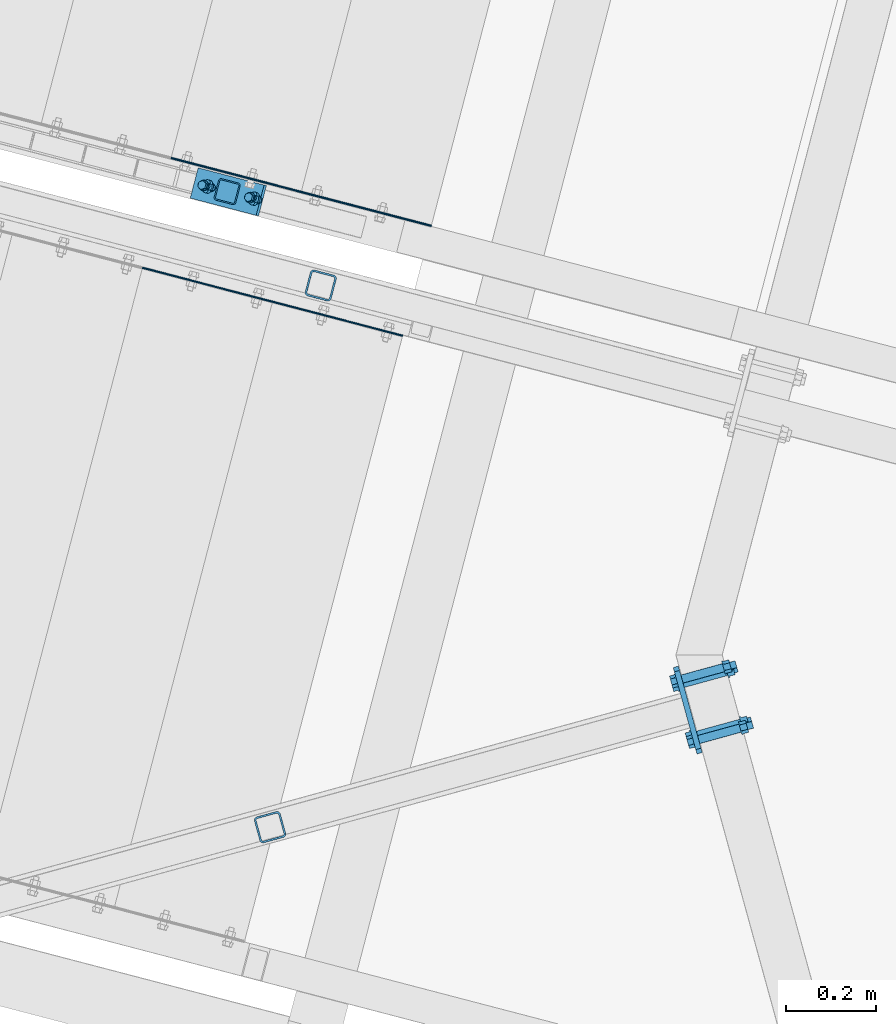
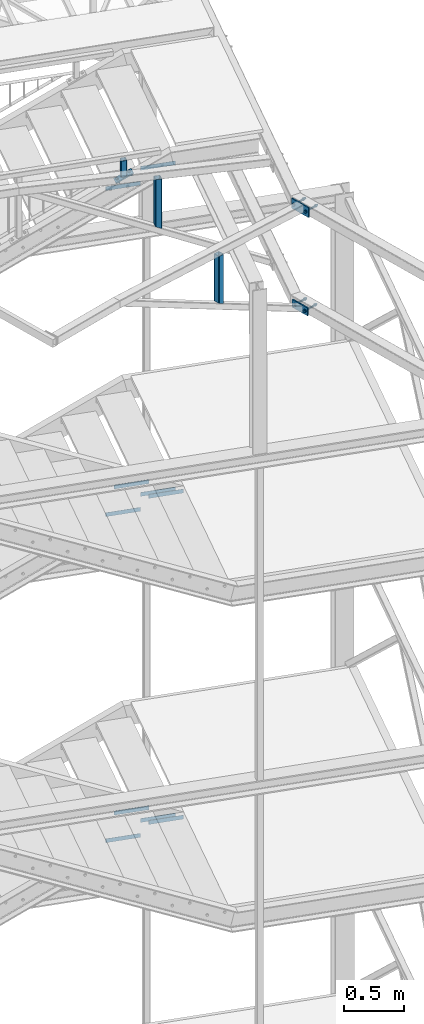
# One storey, part 69 of 169: 16 discrete accessories, 3 mechanical fasteners, 13 elements without a shape of their own.
"""IFC2X3 building model written with IfcOpenShell, lengths in millimetres."""

from ifc_helpers import new_model, si_unit, frame, frame_2d, origin_with_axes, origin_2d_with_axis, place, context, subcontext, project, spatial, polyline, circle_curve, parameter, trimmed, segment, composite_curve, rectangle, hollow_rectangle, circle, outline, extrude, clip, halfspace, source, transform, mapped, material, type_object, element, aggregate, save


model = new_model("IFC2X3")

# Units and contexts
model_context = context("Model", 3, precision=1e-05, world=origin_with_axes())
body_context = subcontext(model_context, "Body", "Model", "MODEL_VIEW")
ifc_project = project(units=[si_unit("LENGTHUNIT", "METRE", prefix="MILLI"), si_unit("AREAUNIT", "SQUARE_METRE"), si_unit("VOLUMEUNIT", "CUBIC_METRE"), si_unit("MASSUNIT", "GRAM", prefix="KILO"), si_unit("TIMEUNIT", "SECOND"), si_unit("PLANEANGLEUNIT", "RADIAN"), si_unit("SOLIDANGLEUNIT", "STERADIAN"), si_unit("THERMODYNAMICTEMPERATUREUNIT", "DEGREE_CELSIUS"), si_unit("LUMINOUSINTENSITYUNIT", "LUMEN")], contexts=[model_context])

# Site, building, storey
site_placement = place(None, origin_with_axes())
site = spatial("IfcSite", under=ifc_project, at=site_placement, Name="Undefined", CompositionType="ELEMENT")
building_placement = place(site_placement, origin_with_axes())
building = spatial("IfcBuilding", under=site, at=building_placement, Name="Undefined", CompositionType="ELEMENT")
storey_placement = place(building_placement, origin_with_axes())
storey = spatial("IfcBuildingStorey", under=building, at=storey_placement, Name="Undefined", CompositionType="ELEMENT", Elevation=0.0)

# Assembly, discrete accessories
assembly_1_placement = place(storey_placement, origin_with_axes())
assembly_1 = element("IfcElementAssembly", 1, at=assembly_1_placement, inside=storey, Name="Steel Assembly", AssemblyPlace="NOTDEFINED", PredefinedType="RIGID_FRAME")
ifc_material_1 = material(Name="STEEL/S235")
discrete_accessory_type_1 = type_object("IfcDiscreteAccessoryType", Name="BLACHA")
discrete_accessory_1_placement = place(assembly_1_placement, frame((-24154.0298552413, 5497.15455266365, 12861.3785766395), z_axis=(-0.964243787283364, -0.265016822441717, -5.00832275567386e-05), x_axis=(1.20319999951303e-05, 0.000145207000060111, -0.999999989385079)))
discrete_accessory_1 = element("IfcDiscreteAccessory", 2, at=discrete_accessory_1_placement, type_object=discrete_accessory_type_1, material=ifc_material_1, Name="BLACHA", ObjectType="BL12*180", context=body_context, shape_type="SweptSolid", body=[
    extrude(outline(polyline([(80.0017852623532, -89.9999999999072), (6.18456397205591e-11, -90.0), (-6.3664629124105e-11, 90.0000000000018), (80.0017852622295, 90.0000000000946), (80.0017852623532, -89.9999999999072)])), frame((-1.81898942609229e-12, -1.81898940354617e-12, -5.99999999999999), z_axis=(0.0, 0.0, 1.0), x_axis=(1.0, 0.0, 0.0)), (0.0, 0.0, 1.0), 12.0),
])
discrete_accessory_2_placement = place(assembly_1_placement, frame((-24127.4497018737, 5400.708565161, 13831.0504554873), z_axis=(-0.964243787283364, -0.265016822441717, -5.00832275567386e-05), x_axis=(-0.265016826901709, 0.964243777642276, 0.000136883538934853)))
discrete_accessory_2 = element("IfcDiscreteAccessory", 3, at=discrete_accessory_2_placement, type_object=discrete_accessory_type_1, material=ifc_material_1, Name="BLACHA", ObjectType="BL12*100", context=body_context, shape_type="SweptSolid", body=[
    extrude(outline(polyline([(200.000000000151, 50.0000000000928), (200.000000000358, -49.9999999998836), (2.75122147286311e-11, -50.0000000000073), (-2.8421709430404e-11, 50.0000000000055), (200.000000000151, 50.0000000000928)])), frame((-1.81898942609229e-12, -1.81898940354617e-12, -5.99999999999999), z_axis=(0.0, 0.0, 1.0), x_axis=(1.0, 0.0, 0.0)), (0.0, 0.0, 1.0), 12.0),
])

# Assembly, discrete accessory
assembly_2_placement = place(storey_placement, origin_with_axes())
assembly_2 = element("IfcElementAssembly", 4, at=assembly_2_placement, inside=storey, Name="Steel Assembly", AssemblyPlace="NOTDEFINED", PredefinedType="RIGID_FRAME")
discrete_accessory_3_placement = place(assembly_2_placement, frame((-25187.9026284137, 6619.39007945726, 13809.2371377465), z_axis=(-0.432715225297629, 0.11294923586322, 0.894427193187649), x_axis=(0.252628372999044, 0.967563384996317, 3.42100000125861e-05)))
discrete_accessory_3 = element("IfcDiscreteAccessory", 5, at=discrete_accessory_3_placement, type_object=discrete_accessory_type_1, material=ifc_material_1, Name="BLACHA", ObjectType="BL12*170", context=body_context, shape_type="SweptSolid", body=[
    extrude(outline(polyline([(5.82076609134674e-11, 84.99999999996), (70.0000000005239, 84.9999999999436), (70.0000000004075, -84.9999999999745), (-5.82076609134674e-11, -84.99999999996), (5.82076609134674e-11, 84.99999999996)])), frame((-1.81898942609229e-12, -1.81898940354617e-12, -5.99999999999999), z_axis=(0.0, 0.0, 1.0), x_axis=(1.0, 0.0, 0.0)), (0.0, 0.0, 1.0), 12.0),
])

# Discrete accessory
discrete_accessory_type_2 = type_object("IfcDiscreteAccessoryType", Name="BEAM")
discrete_accessory_4_placement = place(assembly_1_placement, frame((-25085.9172356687, 5235.79661253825, 13867.4802480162), z_axis=(-0.964243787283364, -0.265016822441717, -5.00832275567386e-05), x_axis=(1.20319999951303e-05, 0.000145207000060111, -0.999999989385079)))
discrete_accessory_4 = element("IfcDiscreteAccessory", 6, at=discrete_accessory_4_placement, type_object=discrete_accessory_type_2, material=ifc_material_1, Name="BEAM", ObjectType="SHS60*4", context=body_context, shape_type="Clipping", body=[
    clip(clip(extrude(hollow_rectangle(XDim=60.0, YDim=60.0, WallThickness=4.0, InnerFilletRadius=4.0, OuterFilletRadius=8.0, at=origin_2d_with_axis()), frame((524.798850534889, 0.0, -3.63798591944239e-12), z_axis=(-1.0, -3.46944695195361e-18, -1.38777878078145e-17), x_axis=(1.73472347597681e-18, -1.0, 0.0)), (0.0, 0.0, 1.0), 523.82), halfspace(frame((49.864036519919, 0.000644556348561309, 871.462888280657), z_axis=(-0.885407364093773, 2.14840959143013e-05, -0.464815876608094), x_axis=(-1.9022240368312e-05, -0.999999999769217, -9.98602767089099e-06)), True)), halfspace(frame((-31.6175807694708, 4.73646650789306e-08, 1000.74984162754), z_axis=(0.998752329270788, -1.61183526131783e-08, 0.0499378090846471), x_axis=(0.0, 1.0, 0.0)), True)),
])

# Assembly, discrete accessory
assembly_3_placement = place(storey_placement, origin_with_axes())
assembly_3 = element("IfcElementAssembly", 7, at=assembly_3_placement, inside=storey, Name="Steel Assembly", AssemblyPlace="NOTDEFINED", PredefinedType="RIGID_FRAME")
discrete_accessory_5_placement = place(assembly_3_placement, frame((-24972.8386397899, 6444.39015732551, 13869.1857493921), z_axis=(-0.967563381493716, 0.252628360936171, -0.000118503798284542), x_axis=(8.00909999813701e-05, -0.000162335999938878, -0.999999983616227)))
discrete_accessory_5 = element("IfcDiscreteAccessory", 8, at=discrete_accessory_5_placement, type_object=discrete_accessory_type_2, material=ifc_material_1, Name="BEAM", ObjectType="SHS60*4", context=body_context, shape_type="Clipping", body=[
    clip(clip(extrude(hollow_rectangle(XDim=60.0, YDim=60.0, WallThickness=4.0, InnerFilletRadius=4.0, OuterFilletRadius=8.0, at=origin_2d_with_axis()), frame((525.887833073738, -3.83678823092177e-13, -1.4254218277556e-17), z_axis=(-1.0, -3.46944695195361e-18, -1.38777878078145e-17), x_axis=(1.73472347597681e-18, -1.0, 0.0)), (0.0, 0.0, 1.0), 523.18), halfspace(frame((50.9524243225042, 0.000644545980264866, 871.46288832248), z_axis=(-0.885407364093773, 2.14840959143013e-05, -0.464815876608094), x_axis=(-1.9022240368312e-05, -0.999999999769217, -9.98602767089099e-06)), True)), halfspace(frame((-29.8887662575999, 2.10288391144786e-08, 1000.74984163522), z_axis=(0.998752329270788, -1.61183526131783e-08, 0.0499378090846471), x_axis=(0.0, 1.0, 0.0)), True)),
])
aggregate(assembly_3, [discrete_accessory_5])

# Discrete accessory
discrete_accessory_type_3 = type_object("IfcDiscreteAccessoryType", Name="STANCHION")
discrete_accessory_6_placement = place(assembly_2_placement, frame((-25181.6574247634, 6653.93058577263, 13800.1970322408), z_axis=(3.4552000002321e-05, 0.000132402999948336, 0.999999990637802), x_axis=(0.252628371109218, 0.967563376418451, -0.000136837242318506)))
discrete_accessory_6 = element("IfcDiscreteAccessory", 9, at=discrete_accessory_6_placement, type_object=discrete_accessory_type_3, material=ifc_material_1, Name="STANCHION", ObjectType="SHS50*3", context=body_context, shape_type="Clipping", body=[
    clip(clip(extrude(hollow_rectangle(XDim=50.0, YDim=50.0, WallThickness=3.0, InnerFilletRadius=3.0, OuterFilletRadius=6.0, at=origin_2d_with_axis()), frame((5.96860776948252e-13, 3.63798078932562e-12, 179.999999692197), z_axis=(-2.54700353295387e-10, 0.0, -1.0), x_axis=(0.0, 1.0, 0.0)), (0.0, 0.0, 1.0), 165.59), halfspace(frame((999.999999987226, -1.93394953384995e-08, 179.999999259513), z_axis=(-2.54700353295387e-10, 0.0, -1.0), x_axis=(0.0, 1.0, 0.0)), True)), halfspace(frame((999.999067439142, 2.68328154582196, 13.2372719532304), z_axis=(-0.00015298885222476, 0.447213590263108, 0.894427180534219), x_axis=(-7.64941891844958e-05, -0.894427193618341, 0.447213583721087)), True)),
])

# Assembly, discrete accessory
assembly_4_placement = place(storey_placement, origin_with_axes())
assembly_4 = element("IfcElementAssembly", 10, at=assembly_4_placement, inside=storey, Name="Steel Assembly", AssemblyPlace="NOTDEFINED", PredefinedType="RIGID_FRAME")
ifc_material_2 = material(Name="STEEL/S235JR")
discrete_accessory_type_4 = type_object("IfcDiscreteAccessoryType", Name="ANGLE")
discrete_accessory_7_placement = place(assembly_4_placement, frame((-24726.0399740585, 6577.8937806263, 13830.0957858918), z_axis=(0.252562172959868, 0.967580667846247, 0.0), x_axis=(-0.967580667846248, 0.252562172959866, 0.0)))
discrete_accessory_7 = element("IfcDiscreteAccessory", 11, at=discrete_accessory_7_placement, type_object=discrete_accessory_type_4, material=ifc_material_2, Name="ANGLE", ObjectType="3*40", context=body_context, shape_type="SweptSolid", body=[
    extrude(rectangle(XDim=40.0, YDim=3.0, at=origin_2d_with_axis()), frame((300.000000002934, 1.81898940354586e-12, -1.81898940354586e-12), z_axis=(-1.0, -3.46944695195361e-18, -1.38777878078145e-17), x_axis=(1.73472347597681e-18, -1.0, 0.0)), (0.0, 0.0, 1.0), 300.0),
])
aggregate(assembly_4, [discrete_accessory_7])

assembly_5_placement = place(storey_placement, origin_with_axes())
assembly_5 = element("IfcElementAssembly", 12, at=assembly_5_placement, inside=storey, Name="Steel Assembly", AssemblyPlace="NOTDEFINED", PredefinedType="RIGID_FRAME")
discrete_accessory_8_placement = place(assembly_5_placement, frame((-25016.3141778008, 6653.66243343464, 13680.0957858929), z_axis=(0.252562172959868, 0.967580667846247, 0.0), x_axis=(-0.967580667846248, 0.252562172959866, 0.0)))
discrete_accessory_8 = element("IfcDiscreteAccessory", 13, at=discrete_accessory_8_placement, type_object=discrete_accessory_type_4, material=ifc_material_2, Name="ANGLE", ObjectType="3*40", context=body_context, shape_type="SweptSolid", body=[
    extrude(rectangle(XDim=40.0, YDim=3.0, at=origin_2d_with_axis()), frame((300.000000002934, 1.81898940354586e-12, -1.81898940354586e-12), z_axis=(-1.0, -3.46944695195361e-18, -1.38777878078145e-17), x_axis=(1.73472347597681e-18, -1.0, 0.0)), (0.0, 0.0, 1.0), 300.0),
])
aggregate(assembly_5, [discrete_accessory_8])

assembly_6_placement = place(storey_placement, origin_with_axes())
assembly_6 = element("IfcElementAssembly", 14, at=assembly_6_placement, inside=storey, Name="Steel Assembly", AssemblyPlace="NOTDEFINED", PredefinedType="RIGID_FRAME")
discrete_accessory_9_placement = place(assembly_6_placement, frame((-25370.5967158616, 6484.28009191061, 10830.3215823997), z_axis=(-0.252694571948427, -0.96754609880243, 0.0), x_axis=(0.96754609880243, -0.252694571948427, 0.0)))
discrete_accessory_9 = element("IfcDiscreteAccessory", 15, at=discrete_accessory_9_placement, type_object=discrete_accessory_type_4, material=ifc_material_2, Name="ANGLE", ObjectType="3*40", context=body_context, shape_type="SweptSolid", body=[
    extrude(rectangle(XDim=40.0, YDim=3.0, at=origin_2d_with_axis()), frame((300.000000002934, 1.81898940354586e-12, -1.81898940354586e-12), z_axis=(-1.0, -3.46944695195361e-18, -1.38777878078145e-17), x_axis=(1.73472347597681e-18, -1.0, 0.0)), (0.0, 0.0, 1.0), 300.0),
])
aggregate(assembly_6, [discrete_accessory_9])

assembly_7_placement = place(storey_placement, origin_with_axes())
assembly_7 = element("IfcElementAssembly", 16, at=assembly_7_placement, inside=storey, Name="Steel Assembly", AssemblyPlace="NOTDEFINED", PredefinedType="RIGID_FRAME")
discrete_accessory_10_placement = place(assembly_7_placement, frame((-25080.3328827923, 6408.47171955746, 10680.3215823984), z_axis=(-0.252694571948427, -0.96754609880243, 0.0), x_axis=(0.96754609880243, -0.252694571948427, 0.0)))
discrete_accessory_10 = element("IfcDiscreteAccessory", 17, at=discrete_accessory_10_placement, type_object=discrete_accessory_type_4, material=ifc_material_2, Name="ANGLE", ObjectType="3*40", context=body_context, shape_type="SweptSolid", body=[
    extrude(rectangle(XDim=40.0, YDim=3.0, at=origin_2d_with_axis()), frame((300.000000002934, 1.81898940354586e-12, -1.81898940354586e-12), z_axis=(-1.0, -3.46944695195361e-18, -1.38777878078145e-17), x_axis=(1.73472347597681e-18, -1.0, 0.0)), (0.0, 0.0, 1.0), 300.0),
])
aggregate(assembly_7, [discrete_accessory_10])

assembly_8_placement = place(storey_placement, origin_with_axes())
assembly_8 = element("IfcElementAssembly", 18, at=assembly_8_placement, inside=storey, Name="Steel Assembly", AssemblyPlace="NOTDEFINED", PredefinedType="RIGID_FRAME")
discrete_accessory_11_placement = place(assembly_8_placement, frame((-24726.1540514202, 6577.45686564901, 10530.0958168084), z_axis=(0.252562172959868, 0.967580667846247, 0.0), x_axis=(-0.967580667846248, 0.252562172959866, 0.0)))
discrete_accessory_11 = element("IfcDiscreteAccessory", 19, at=discrete_accessory_11_placement, type_object=discrete_accessory_type_4, material=ifc_material_2, Name="ANGLE", ObjectType="3*40", context=body_context, shape_type="SweptSolid", body=[
    extrude(rectangle(XDim=40.0, YDim=3.0, at=origin_2d_with_axis()), frame((300.000000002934, 1.81898940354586e-12, -1.81898940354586e-12), z_axis=(-1.0, -3.46944695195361e-18, -1.38777878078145e-17), x_axis=(1.73472347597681e-18, -1.0, 0.0)), (0.0, 0.0, 1.0), 300.0),
])
aggregate(assembly_8, [discrete_accessory_11])

assembly_9_placement = place(storey_placement, origin_with_axes())
assembly_9 = element("IfcElementAssembly", 20, at=assembly_9_placement, inside=storey, Name="Steel Assembly", AssemblyPlace="NOTDEFINED", PredefinedType="RIGID_FRAME")
discrete_accessory_12_placement = place(assembly_9_placement, frame((-25016.4282551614, 6653.2255184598, 10380.0958168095), z_axis=(0.252562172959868, 0.967580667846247, 0.0), x_axis=(-0.967580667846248, 0.252562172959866, 0.0)))
discrete_accessory_12 = element("IfcDiscreteAccessory", 21, at=discrete_accessory_12_placement, type_object=discrete_accessory_type_4, material=ifc_material_2, Name="ANGLE", ObjectType="3*40", context=body_context, shape_type="SweptSolid", body=[
    extrude(rectangle(XDim=40.0, YDim=3.0, at=origin_2d_with_axis()), frame((300.000000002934, 1.81898940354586e-12, -1.81898940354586e-12), z_axis=(-1.0, -3.46944695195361e-18, -1.38777878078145e-17), x_axis=(1.73472347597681e-18, -1.0, 0.0)), (0.0, 0.0, 1.0), 300.0),
])
aggregate(assembly_9, [discrete_accessory_12])

assembly_10_placement = place(storey_placement, origin_with_axes())
assembly_10 = element("IfcElementAssembly", 22, at=assembly_10_placement, inside=storey, Name="Steel Assembly", AssemblyPlace="NOTDEFINED", PredefinedType="RIGID_FRAME")
discrete_accessory_13_placement = place(assembly_10_placement, frame((-25370.7107932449, 6483.84317695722, 7530.32161330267), z_axis=(-0.252694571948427, -0.96754609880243, 0.0), x_axis=(0.96754609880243, -0.252694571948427, 0.0)))
discrete_accessory_13 = element("IfcDiscreteAccessory", 23, at=discrete_accessory_13_placement, type_object=discrete_accessory_type_4, material=ifc_material_2, Name="ANGLE", ObjectType="3*40", context=body_context, shape_type="SweptSolid", body=[
    extrude(rectangle(XDim=40.0, YDim=3.0, at=origin_2d_with_axis()), frame((300.000000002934, 1.81898940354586e-12, -1.81898940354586e-12), z_axis=(-1.0, -3.46944695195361e-18, -1.38777878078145e-17), x_axis=(1.73472347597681e-18, -1.0, 0.0)), (0.0, 0.0, 1.0), 300.0),
])
aggregate(assembly_10, [discrete_accessory_13])

assembly_11_placement = place(storey_placement, origin_with_axes())
assembly_11 = element("IfcElementAssembly", 24, at=assembly_11_placement, inside=storey, Name="Steel Assembly", AssemblyPlace="NOTDEFINED", PredefinedType="RIGID_FRAME")
discrete_accessory_14_placement = place(assembly_11_placement, frame((-25080.4469601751, 6408.03480460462, 7380.3216133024), z_axis=(-0.252694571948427, -0.96754609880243, 0.0), x_axis=(0.96754609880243, -0.252694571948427, 0.0)))
discrete_accessory_14 = element("IfcDiscreteAccessory", 25, at=discrete_accessory_14_placement, type_object=discrete_accessory_type_4, material=ifc_material_2, Name="ANGLE", ObjectType="3*40", context=body_context, shape_type="SweptSolid", body=[
    extrude(rectangle(XDim=40.0, YDim=3.0, at=origin_2d_with_axis()), frame((300.000000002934, 1.81898940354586e-12, -1.81898940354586e-12), z_axis=(-1.0, -3.46944695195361e-18, -1.38777878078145e-17), x_axis=(1.73472347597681e-18, -1.0, 0.0)), (0.0, 0.0, 1.0), 300.0),
])
aggregate(assembly_11, [discrete_accessory_14])

assembly_12_placement = place(storey_placement, origin_with_axes())
assembly_12 = element("IfcElementAssembly", 26, at=assembly_12_placement, inside=storey, Name="Steel Assembly", AssemblyPlace="NOTDEFINED", PredefinedType="RIGID_FRAME")
discrete_accessory_15_placement = place(assembly_12_placement, frame((-24726.2681288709, 6577.01995070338, 7230.09584768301), z_axis=(0.252562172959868, 0.967580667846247, 0.0), x_axis=(-0.967580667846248, 0.252562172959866, 0.0)))
discrete_accessory_15 = element("IfcDiscreteAccessory", 27, at=discrete_accessory_15_placement, type_object=discrete_accessory_type_4, material=ifc_material_2, Name="ANGLE", ObjectType="3*40", context=body_context, shape_type="SweptSolid", body=[
    extrude(rectangle(XDim=40.0, YDim=3.0, at=origin_2d_with_axis()), frame((300.000000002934, 1.81898940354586e-12, -1.81898940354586e-12), z_axis=(-1.0, -3.46944695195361e-18, -1.38777878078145e-17), x_axis=(1.73472347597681e-18, -1.0, 0.0)), (0.0, 0.0, 1.0), 300.0),
])
aggregate(assembly_12, [discrete_accessory_15])

assembly_13_placement = place(storey_placement, origin_with_axes())
assembly_13 = element("IfcElementAssembly", 28, at=assembly_13_placement, inside=storey, Name="Steel Assembly", AssemblyPlace="NOTDEFINED", PredefinedType="RIGID_FRAME")
discrete_accessory_16_placement = place(assembly_13_placement, frame((-25016.5423326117, 6652.78860351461, 7080.09584768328), z_axis=(0.252562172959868, 0.967580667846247, 0.0), x_axis=(-0.967580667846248, 0.252562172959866, 0.0)))
discrete_accessory_16 = element("IfcDiscreteAccessory", 29, at=discrete_accessory_16_placement, type_object=discrete_accessory_type_4, material=ifc_material_2, Name="ANGLE", ObjectType="3*40", context=body_context, shape_type="SweptSolid", body=[
    extrude(rectangle(XDim=40.0, YDim=3.0, at=origin_2d_with_axis()), frame((300.000000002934, 1.81898940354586e-12, -1.81898940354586e-12), z_axis=(-1.0, -3.46944695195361e-18, -1.38777878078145e-17), x_axis=(1.73472347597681e-18, -1.0, 0.0)), (0.0, 0.0, 1.0), 300.0),
])
aggregate(assembly_13, [discrete_accessory_16])

# Mechanical fastener
ifc_material_3 = material(Name="Undefined")
discrete_accessory_type_5 = type_object("IfcDiscreteAccessoryType", Name="Bolt assembly")
shared_shape_1 = source(origin_with_axes(), body_context, "Body", "SweptSolid", [
    extrude(circle(Radius=9.5, at=origin_2d_with_axis()), frame((0.0, 3.89999843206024, 0.0), z_axis=(0.0, 1.0, 0.0), x_axis=(1.0, 0.0, 0.0)), (0.0, 0.0, 1.0), 100.1),
    extrude(outline(composite_curve([segment(polyline([(-10.0, 9.5), (10.0, 9.5)]), True, "CONTINUOUS"), segment(trimmed(circle_curve(frame_2d((10.0, 0.0), x_axis=(0.0, 1.0)), 9.5), [parameter(0.0)], [parameter(3.14159265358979)], False, "PARAMETER"), True, "CONTINUOUS"), segment(polyline([(10.0, -9.5), (-10.0, -9.5)]), True, "CONTINUOUS"), segment(trimmed(circle_curve(frame_2d((-10.0, 0.0), x_axis=(0.0, -1.0)), 9.5), [parameter(0.0)], [parameter(3.14159265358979)], False, "PARAMETER"), True, "DISCONTINUOUS")], self_intersect=False)), frame((0.0, -8.89999998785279, 0.0), z_axis=(0.0, 1.0, 0.0), x_axis=(1.0, 0.0, 0.0)), (0.0, 0.0, 1.0), 12.0),
    extrude(outline(polyline([(13.85640646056, 0.0), (6.92820323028, 12.0000000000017), (-6.92820323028, 12.0000000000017), (-13.85640646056, 0.0), (-6.92820323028, -12.0000000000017), (6.92820323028, -12.0000000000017), (13.85640646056, 0.0)])), frame((0.0, -21.9999999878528, 0.0), z_axis=(0.0, 1.0, 0.0), x_axis=(1.0, 0.0, 0.0)), (0.0, 0.0, 1.0), 10.0),
    extrude(circle(Radius=8.0, at=origin_2d_with_axis()), frame((0.0, -11.9999999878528, 0.0), z_axis=(0.0, 1.0, 0.0), x_axis=(1.0, 0.0, 0.0)), (0.0, 0.0, 1.0), 140.0),
    extrude(circle(Radius=15.0, at=origin_2d_with_axis()), frame((0.0, -11.9999999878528, 0.0), z_axis=(0.0, 1.0, 0.0), x_axis=(1.0, 0.0, 0.0)), (0.0, 0.0, 1.0), 3.0),
    extrude(circle(Radius=15.0, at=origin_2d_with_axis()), frame((0.0, 103.999998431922, 0.0), z_axis=(0.0, 1.0, 0.0), x_axis=(1.0, 0.0, 0.0)), (0.0, 0.0, 1.0), 3.0),
    extrude(outline(polyline([(13.85640646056, 0.0), (6.92820323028, 12.0000000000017), (-6.92820323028, 12.0000000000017), (-13.85640646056, 0.0), (-6.92820323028, -12.0000000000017), (6.92820323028, -12.0000000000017), (13.85640646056, 0.0)])), frame((0.0, 106.999998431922, 0.0), z_axis=(0.0, 1.0, 0.0), x_axis=(1.0, 0.0, 0.0)), (0.0, 0.0, 1.0), 13.0),
])
mechanical_fastener_1_placement = place(assembly_1_placement, frame((-24151.1366432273, 5497.95541385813, 12821.3769411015), z_axis=(-0.265016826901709, 0.964243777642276, 0.000136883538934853), x_axis=(-1.20319999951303e-05, -0.000145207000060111, 0.999999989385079)))
mechanical_fastener_1 = element("IfcMechanicalFastener", 30, at=mechanical_fastener_1_placement, type_object=discrete_accessory_type_5, material=ifc_material_3, Name="Bolt assembly", NominalDiameter=16.0, NominalLength=140.0, context=body_context, shape_type="MappedRepresentation", body=[
    mapped(shared_shape_1, transform((1.18234311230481e-11, 9.20081788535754e-11, -60.0000000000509))),
    mapped(shared_shape_1, transform((-1.2732925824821e-11, -9.20223897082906e-11, 60.0000000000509))),
])

shared_shape_2 = source(origin_with_axes(), body_context, "Body", "SweptSolid", [
    extrude(circle(Radius=9.5, at=origin_2d_with_axis()), frame((0.0, 3.89999843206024, 0.0), z_axis=(0.0, 1.0, 0.0), x_axis=(1.0, 0.0, 0.0)), (0.0, 0.0, 1.0), 95.1),
    extrude(outline(composite_curve([segment(polyline([(9.5, 10.0), (9.5, -10.0)]), True, "CONTINUOUS"), segment(trimmed(circle_curve(frame_2d((0.0, -10.0), x_axis=(1.0, 0.0)), 9.5), [parameter(0.0)], [parameter(3.14159265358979)], False, "PARAMETER"), True, "CONTINUOUS"), segment(polyline([(-9.5, -10.0), (-9.5, 10.0)]), True, "CONTINUOUS"), segment(trimmed(circle_curve(frame_2d((0.0, 10.0), x_axis=(-1.0, 0.0)), 9.5), [parameter(0.0)], [parameter(3.14159265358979)], False, "PARAMETER"), True, "DISCONTINUOUS")], self_intersect=False)), frame((0.0, -8.89999998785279, 0.0), z_axis=(0.0, 1.0, 0.0), x_axis=(1.0, 0.0, 0.0)), (0.0, 0.0, 1.0), 12.0),
    extrude(outline(polyline([(13.85640646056, 0.0), (6.92820323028, 12.0000000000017), (-6.92820323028, 12.0000000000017), (-13.85640646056, 0.0), (-6.92820323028, -12.0000000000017), (6.92820323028, -12.0000000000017), (13.85640646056, 0.0)])), frame((0.0, -21.9999999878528, 0.0), z_axis=(0.0, 1.0, 0.0), x_axis=(1.0, 0.0, 0.0)), (0.0, 0.0, 1.0), 10.0),
    extrude(circle(Radius=8.0, at=origin_2d_with_axis()), frame((0.0, -11.9999999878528, 0.0), z_axis=(0.0, 1.0, 0.0), x_axis=(1.0, 0.0, 0.0)), (0.0, 0.0, 1.0), 140.0),
    extrude(circle(Radius=15.0, at=origin_2d_with_axis()), frame((0.0, -11.9999999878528, 0.0), z_axis=(0.0, 1.0, 0.0), x_axis=(1.0, 0.0, 0.0)), (0.0, 0.0, 1.0), 3.0),
    extrude(circle(Radius=15.0, at=origin_2d_with_axis()), frame((0.0, 98.9999992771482, 0.0), z_axis=(0.0, 1.0, 0.0), x_axis=(1.0, 0.0, 0.0)), (0.0, 0.0, 1.0), 3.0),
    extrude(outline(polyline([(13.85640646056, 0.0), (6.92820323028, 12.0000000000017), (-6.92820323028, 12.0000000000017), (-13.85640646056, 0.0), (-6.92820323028, -12.0000000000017), (6.92820323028, -12.0000000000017), (13.85640646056, 0.0)])), frame((0.0, 101.999999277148, 0.0), z_axis=(0.0, 1.0, 0.0), x_axis=(1.0, 0.0, 0.0)), (0.0, 0.0, 1.0), 13.0),
])
mechanical_fastener_2_placement = place(assembly_1_placement, frame((-24169.6098293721, 5565.42505827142, 13831.0738690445), z_axis=(-1.20319999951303e-05, -0.000145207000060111, 0.999999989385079), x_axis=(0.265016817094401, -0.964243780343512, -0.000136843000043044)))
mechanical_fastener_2 = element("IfcMechanicalFastener", 31, at=mechanical_fastener_2_placement, type_object=discrete_accessory_type_5, material=ifc_material_3, Name="Bolt assembly", NominalDiameter=16.0, NominalLength=140.0, context=body_context, shape_type="MappedRepresentation", body=[
    mapped(shared_shape_2, transform((0.0, 0.0, 0.0))),
    mapped(shared_shape_2, transform((139.999999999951, -4.15525391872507e-11, -3.09228198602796e-11))),
])

aggregate(assembly_1, [mechanical_fastener_1, discrete_accessory_1, mechanical_fastener_2, discrete_accessory_2, discrete_accessory_4])

shared_shape_3 = source(origin_with_axes(), body_context, "Body", "SweptSolid", [
    extrude(outline(composite_curve([segment(polyline([(-7.5, 7.5), (7.5, 7.5)]), True, "CONTINUOUS"), segment(trimmed(circle_curve(frame_2d((7.5, 0.0), x_axis=(0.0, 1.0)), 7.5), [parameter(0.0)], [parameter(3.14159265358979)], False, "PARAMETER"), True, "CONTINUOUS"), segment(polyline([(7.5, -7.5), (-7.5, -7.5)]), True, "CONTINUOUS"), segment(trimmed(circle_curve(frame_2d((-7.5, 0.0), x_axis=(0.0, -1.0)), 7.5), [parameter(0.0)], [parameter(3.14159265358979)], False, "PARAMETER"), True, "DISCONTINUOUS")], self_intersect=False)), frame((0.0, 0.649999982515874, 0.0), z_axis=(0.0, 1.0, 0.0), x_axis=(1.0, 0.0, 0.0)), (0.0, 0.0, 1.0), 11.6),
    extrude(outline(composite_curve([segment(polyline([(7.5, 7.5), (7.5, -7.5)]), True, "CONTINUOUS"), segment(trimmed(circle_curve(frame_2d((0.0, -7.5), x_axis=(1.0, 0.0)), 7.5), [parameter(0.0)], [parameter(3.14159265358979)], False, "PARAMETER"), True, "CONTINUOUS"), segment(polyline([(-7.5, -7.5), (-7.5, 7.5)]), True, "CONTINUOUS"), segment(trimmed(circle_curve(frame_2d((0.0, 7.5), x_axis=(-1.0, 0.0)), 7.5), [parameter(0.0)], [parameter(3.14159265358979)], False, "PARAMETER"), True, "DISCONTINUOUS")], self_intersect=False)), frame((0.0, -12.1500000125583, 0.0), z_axis=(0.0, 1.0, 0.0), x_axis=(1.0, 0.0, 0.0)), (0.0, 0.0, 1.0), 12.0),
    extrude(outline(polyline([(10.39230484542, 0.0), (5.19615242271, 9.00000000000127), (-5.19615242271, 9.00000000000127), (-10.39230484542, 0.0), (-5.19615242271, -9.00000000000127), (5.19615242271, -9.00000000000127), (10.39230484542, 0.0)])), frame((0.0, -22.7500000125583, 0.0), z_axis=(0.0, 1.0, 0.0), x_axis=(1.0, 0.0, 0.0)), (0.0, 0.0, 1.0), 7.5),
    extrude(circle(Radius=6.0, at=origin_2d_with_axis()), frame((0.0, -15.2500000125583, 0.0), z_axis=(0.0, 1.0, 0.0), x_axis=(1.0, 0.0, 0.0)), (0.0, 0.0, 1.0), 50.0),
    extrude(circle(Radius=12.0, at=origin_2d_with_axis()), frame((0.0, -15.2500000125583, 0.0), z_axis=(0.0, 1.0, 0.0), x_axis=(1.0, 0.0, 0.0)), (0.0, 0.0, 1.0), 3.0),
    extrude(circle(Radius=12.0, at=origin_2d_with_axis()), frame((0.0, 12.2499999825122, 0.0), z_axis=(0.0, 1.0, 0.0), x_axis=(1.0, 0.0, 0.0)), (0.0, 0.0, 1.0), 3.0),
    extrude(outline(polyline([(10.96965511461, 0.0), (5.484827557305, 9.50000000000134), (-5.484827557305, 9.50000000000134), (-10.96965511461, 0.0), (-5.484827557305, -9.50000000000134), (5.484827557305, -9.50000000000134), (10.96965511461, 0.0)])), frame((0.0, 15.2499999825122, 0.0), z_axis=(0.0, 1.0, 0.0), x_axis=(1.0, 0.0, 0.0)), (0.0, 0.0, 1.0), 10.0),
])
mechanical_fastener_3_placement = place(assembly_2_placement, frame((-25170.0404557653, 6676.73795018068, 13803.6490203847), z_axis=(0.86541113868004, -0.22597248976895, 0.447213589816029), x_axis=(-0.252628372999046, -0.967563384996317, -3.42099999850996e-05)))
mechanical_fastener_3 = element("IfcMechanicalFastener", 32, at=mechanical_fastener_3_placement, type_object=discrete_accessory_type_5, material=ifc_material_3, Name="Bolt assembly", NominalDiameter=12.0, NominalLength=50.0, context=body_context, shape_type="MappedRepresentation", body=[
    mapped(shared_shape_3, transform((24.9999999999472, 0.0, -60.0000000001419))),
    mapped(shared_shape_3, transform((24.9999999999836, -3.54702933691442e-11, 60.0000000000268))),
])

aggregate(assembly_2, [mechanical_fastener_3, discrete_accessory_3, discrete_accessory_6])

save(model, "model.ifc")
